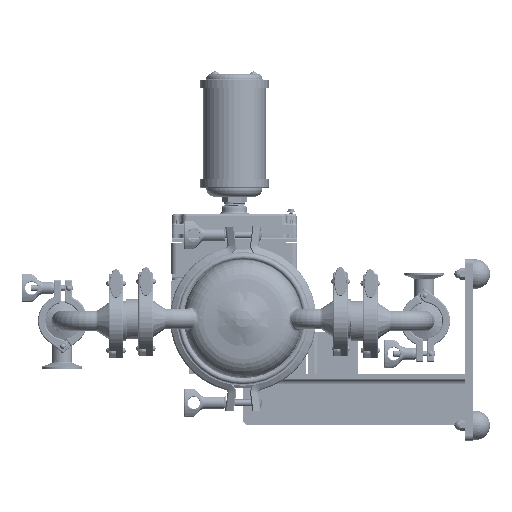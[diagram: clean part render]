
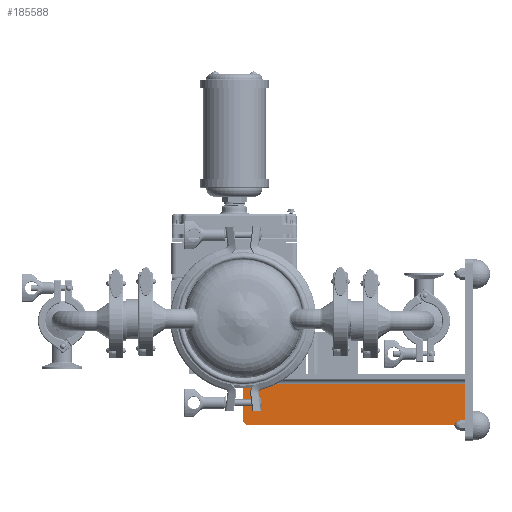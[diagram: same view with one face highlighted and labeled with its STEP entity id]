
A CAD part, left-side view. The second image highlights one B-rep face of the part: STEP entity #185588.
In plain terms, the highlighted planar face has unit normal (-1, 0, 0).
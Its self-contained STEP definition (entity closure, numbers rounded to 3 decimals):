
#29359=DIRECTION('',(0.,0.,-1.));
#29360=VECTOR('',#29359,1.75);
#29361=CARTESIAN_POINT('',(-0.125,0.01,-3.25));
#29362=LINE('',#29361,#29360);
#29637=DIRECTION('',(0.,0.,-1.));
#29638=VECTOR('',#29637,2.);
#29639=CARTESIAN_POINT('',(-0.125,-10.99,-3.25));
#29640=LINE('',#29639,#29638);
#30205=DIRECTION('',(0.,-1.,0.));
#30206=VECTOR('',#30205,10.75);
#30207=CARTESIAN_POINT('',(-0.125,-0.24,-5.25));
#30208=LINE('',#30207,#30206);
#30332=CARTESIAN_POINT('',(-0.125,-0.24,-5.));
#30333=DIRECTION('',(-1.,0.,0.));
#30334=DIRECTION('',(0.,1.,0.));
#30335=AXIS2_PLACEMENT_3D('',#30332,#30333,#30334);
#30337=DIRECTION('',(0.,-1.,0.));
#30338=VECTOR('',#30337,11.);
#30339=CARTESIAN_POINT('',(-0.125,0.01,-3.25));
#30340=LINE('',#30339,#30338);
#157899=CARTESIAN_POINT('',(-0.125,0.01,-3.25));
#157901=VERTEX_POINT('',#157899);
#157911=CARTESIAN_POINT('',(-0.125,0.01,-5.));
#157912=CARTESIAN_POINT('',(-0.125,-0.24,-5.25));
#157913=VERTEX_POINT('',#157911);
#157914=VERTEX_POINT('',#157912);
#157960=CARTESIAN_POINT('',(-0.125,-10.99,-5.25));
#157962=VERTEX_POINT('',#157960);
#157974=CARTESIAN_POINT('',(-0.125,-10.99,-3.25));
#157975=VERTEX_POINT('',#157974);
#185575=CARTESIAN_POINT('',(-0.125,0.01,-3.));
#185576=DIRECTION('',(-1.,0.,0.));
#185577=DIRECTION('',(0.,0.,-1.));
#185578=AXIS2_PLACEMENT_3D('',#185575,#185576,#185577);
#185579=PLANE('',#185578);
#185580=ORIENTED_EDGE('',*,*,#184716,.T.);
#185581=ORIENTED_EDGE('',*,*,#185410,.F.);
#185582=ORIENTED_EDGE('',*,*,#185567,.F.);
#185583=ORIENTED_EDGE('',*,*,#184350,.F.);
#185585=ORIENTED_EDGE('',*,*,#185584,.T.);
#185586=EDGE_LOOP('',(#185580,#185581,#185582,#185583,#185585));
#185587=FACE_OUTER_BOUND('',#185586,.F.);
#30336=CIRCLE('',#30335,0.25);
#184350=EDGE_CURVE('',#157901,#157913,#29362,.T.);
#184716=EDGE_CURVE('',#157975,#157962,#29640,.T.);
#185410=EDGE_CURVE('',#157914,#157962,#30208,.T.);
#185567=EDGE_CURVE('',#157913,#157914,#30336,.T.);
#185584=EDGE_CURVE('',#157901,#157975,#30340,.T.);
#185588=ADVANCED_FACE('',(#185587),#185579,.T.);
